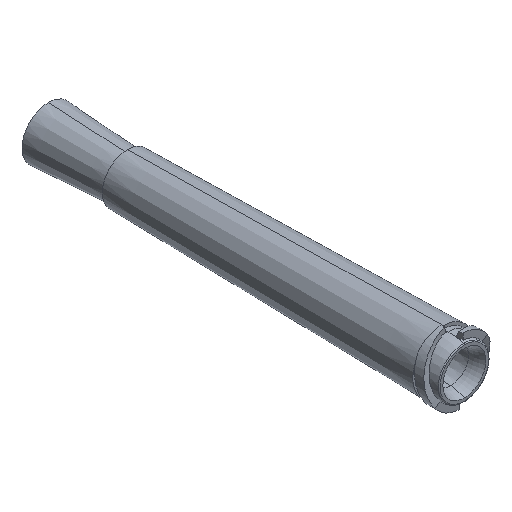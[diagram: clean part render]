
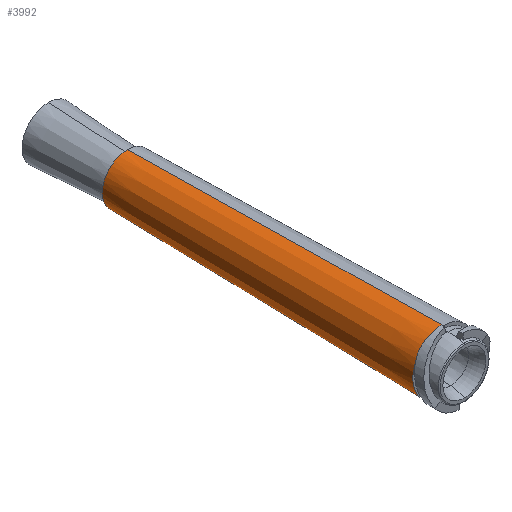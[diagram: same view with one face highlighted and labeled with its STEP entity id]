
A CAD part, isometric view. The second image highlights one B-rep face of the part: STEP entity #3992.
In plain terms, the highlighted conical face has half-angle 1 degrees and reference radius 3.683 mm.
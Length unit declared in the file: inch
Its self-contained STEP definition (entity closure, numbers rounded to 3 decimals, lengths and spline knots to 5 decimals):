
#95 = AXIS2_PLACEMENT_3D ( 'NONE', #1065, #3293, #1819 ) ;
#121 = VERTEX_POINT ( 'NONE', #8272 ) ;
#183 = VECTOR ( 'NONE', #336, 39.37008 ) ;
#336 = DIRECTION ( 'NONE',  ( 0., -1., -0.017 ) ) ;
#872 = EDGE_CURVE ( 'NONE', #8835, #2603, #5581, .T. ) ;
#1065 = CARTESIAN_POINT ( 'NONE',  ( 0., 0.1, 0. ) ) ;
#1107 = LINE ( 'NONE', #6238, #183 ) ;
#1400 = VERTEX_POINT ( 'NONE', #4311 ) ;
#1819 = DIRECTION ( 'NONE',  ( 0., 0., 1. ) ) ;
#1856 = DIRECTION ( 'NONE',  ( 0., 1., 0. ) ) ;
#1878 = DIRECTION ( 'NONE',  ( 0., -1., 0. ) ) ;
#2603 = VERTEX_POINT ( 'NONE', #7188 ) ;
#2644 = ORIENTED_EDGE ( 'NONE', *, *, #872, .F. ) ;
#2722 = DIRECTION ( 'NONE',  ( 0., 0., 1. ) ) ;
#2980 = EDGE_CURVE ( 'NONE', #121, #7233, #5794, .T. ) ;
#3074 = VECTOR ( 'NONE', #4281, 39.37008 ) ;
#3103 = CIRCLE ( 'NONE', #95, 0.145 ) ;
#3293 = DIRECTION ( 'NONE',  ( 0., 1., 0. ) ) ;
#3420 = DIRECTION ( 'NONE',  ( 0., 0., 1. ) ) ;
#3541 = VERTEX_POINT ( 'NONE', #8574 ) ;
#3992 = ADVANCED_FACE ( 'NONE', ( #8209 ), #5193, .T. ) ;
#4123 = CARTESIAN_POINT ( 'NONE',  ( 0., 0.1, 0. ) ) ;
#4259 = AXIS2_PLACEMENT_3D ( 'NONE', #7688, #6096, #8397 ) ;
#4281 = DIRECTION ( 'NONE',  ( 0., -1., 0.017 ) ) ;
#4311 = CARTESIAN_POINT ( 'NONE',  ( 0., 0.1, 0.145 ) ) ;
#4684 = AXIS2_PLACEMENT_3D ( 'NONE', #8496, #1878, #3420 ) ;
#4806 = EDGE_LOOP ( 'NONE', ( #2644, #5455, #8389, #9111, #4944, #5522 ) ) ;
#4825 = EDGE_CURVE ( 'NONE', #8835, #3541, #1107, .T. ) ;
#4852 = CARTESIAN_POINT ( 'NONE',  ( 0., 1.6, -0.11882 ) ) ;
#4944 = ORIENTED_EDGE ( 'NONE', *, *, #5172, .T. ) ;
#4952 = CARTESIAN_POINT ( 'NONE',  ( -0.00904, 0.1, 0.14472 ) ) ;
#5172 = EDGE_CURVE ( 'NONE', #7233, #1400, #3103, .T. ) ;
#5193 = CONICAL_SURFACE ( 'NONE', #4684, 0.145, 0.017 ) ;
#5237 = AXIS2_PLACEMENT_3D ( 'NONE', #4123, #1856, #7908 ) ;
#5455 = ORIENTED_EDGE ( 'NONE', *, *, #4825, .T. ) ;
#5522 = ORIENTED_EDGE ( 'NONE', *, *, #7995, .F. ) ;
#5581 = CIRCLE ( 'NONE', #9332, 0.11882 ) ;
#5794 = CIRCLE ( 'NONE', #4259, 0.145 ) ;
#5811 = CARTESIAN_POINT ( 'NONE',  ( 0., 1.6, 0. ) ) ;
#6096 = DIRECTION ( 'NONE',  ( 0., 1., 0. ) ) ;
#6238 = CARTESIAN_POINT ( 'NONE',  ( 0., 0.1, -0.145 ) ) ;
#6670 = LINE ( 'NONE', #7973, #3074 ) ;
#7179 = DIRECTION ( 'NONE',  ( 0., 1., 0. ) ) ;
#7188 = CARTESIAN_POINT ( 'NONE',  ( 0., 1.6, 0.11882 ) ) ;
#7233 = VERTEX_POINT ( 'NONE', #4952 ) ;
#7688 = CARTESIAN_POINT ( 'NONE',  ( 0., 0.1, 0. ) ) ;
#7908 = DIRECTION ( 'NONE',  ( 0., 0., 1. ) ) ;
#7973 = CARTESIAN_POINT ( 'NONE',  ( 0., 0.1, 0.145 ) ) ;
#7995 = EDGE_CURVE ( 'NONE', #2603, #1400, #6670, .T. ) ;
#8209 = FACE_OUTER_BOUND ( 'NONE', #4806, .T. ) ;
#8272 = CARTESIAN_POINT ( 'NONE',  ( -0.12589, 0.1, 0.07194 ) ) ;
#8389 = ORIENTED_EDGE ( 'NONE', *, *, #8812, .T. ) ;
#8397 = DIRECTION ( 'NONE',  ( 0., 0., 1. ) ) ;
#8496 = CARTESIAN_POINT ( 'NONE',  ( 0., 0.1, 0. ) ) ;
#8574 = CARTESIAN_POINT ( 'NONE',  ( 0., 0.1, -0.145 ) ) ;
#8746 = CIRCLE ( 'NONE', #5237, 0.145 ) ;
#8812 = EDGE_CURVE ( 'NONE', #3541, #121, #8746, .T. ) ;
#8835 = VERTEX_POINT ( 'NONE', #4852 ) ;
#9111 = ORIENTED_EDGE ( 'NONE', *, *, #2980, .T. ) ;
#9332 = AXIS2_PLACEMENT_3D ( 'NONE', #5811, #7179, #2722 ) ;
